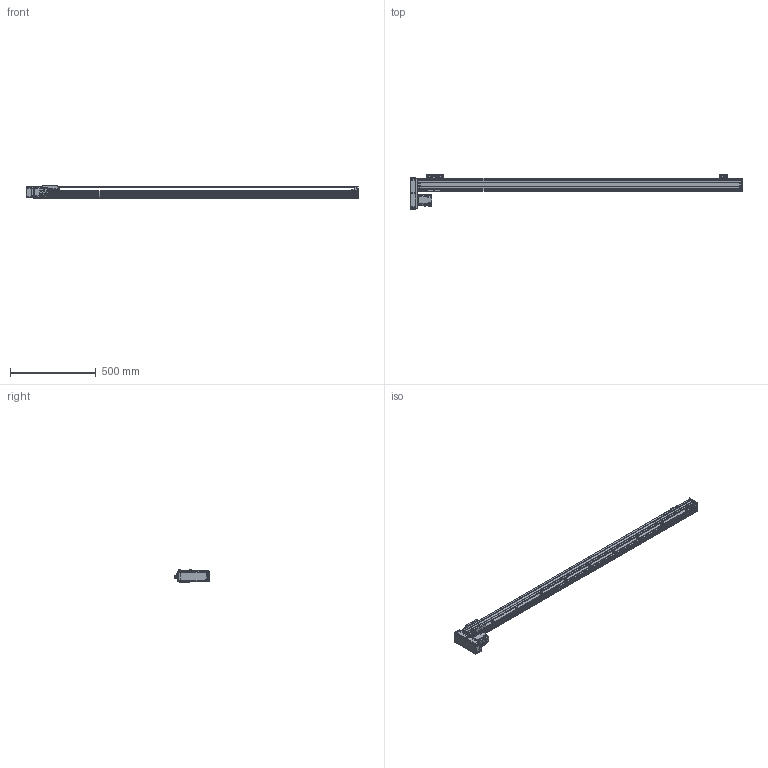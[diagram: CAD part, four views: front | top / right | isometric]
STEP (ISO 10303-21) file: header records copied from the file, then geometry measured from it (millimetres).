
FILE_DESCRIPTION(/* description */ (''),/* implementation_level */ '2;1');
FILE_NAME(/* name */ '\\192.168.0.160\disk1\HAN SHIN Master\B-설계부문\C-표준\B-2024년\BC02-표준도면\+로봇 개선표준도면\홈페이지 표준 도면\홈페이지 최종 작업 폴더\3D\HR\HR75\HR75병렬\우병렬\HR75-R20-N1B-1700-L10.stp',/* time_stamp */ '2025-01-18T17:02:55+09:00',/* author */ ('user'),/* organization */ (''),/* preprocessor_version */ 'ST-DEVELOPER v18.1',/* originating_system */ 'Autodesk Inventor 2022',/* authorisation */ '');
FILE_SCHEMA (('CONFIG_CONTROL_DESIGN'));
Products named in the file (23): HG75-L20-N1B-0500-R10 - 간소화; BASE; HR75 FRONT BLOCK; HR75 REAR COVER-TENTION; HR75 TENSION REAR BLOCK; HG3UPCOV001; H 15F_BLOCK; HG90STOPPER - 20L; HG90STOPPER - 27L; MOTOR PLATE-200W(MITSUBISHI); 화살표; hg-kr23_; M-5HL-4; HR75 W TABLE; LMKE1520 NUT; HR75-LR-BELT COVER(200W); HR75-BELT COVER-COVER2; HR75-BELT COVER-COVER; HR65-BELT COVER-COVER3; HC75-LR-MOTOR PLATE(200W)-사출_MIR; HR65,75 SENSOR DOG; EE_SX674A; SENSOR BRK(EE-SX674A)
Assembly tree (28 placements, depth 2):
  HG75-L20-N1B-0500-R10 - 간소화
    BASE
    HR75 FRONT BLOCK
    HR75 REAR COVER-TENTION
    HR75 TENSION REAR BLOCK
    HG3UPCOV001
    H 15F_BLOCK
    HG90STOPPER - 20L
    HG90STOPPER - 27L
    MOTOR PLATE-200W(MITSUBISHI)
    화살표  x2
    hg-kr23_
    M-5HL-4
    HR75 W TABLE
    LMKE1520 NUT
    SENSOR BRK(EE-SX674A)  x3
    EE_SX674A  x3
    HR75-LR-BELT COVER(200W)
    HR75-BELT COVER-COVER2
    HR75-BELT COVER-COVER
    HR65-BELT COVER-COVER3  x2
    HC75-LR-MOTOR PLATE(200W)-사출_MIR
    HR65,75 SENSOR DOG
Bounding box: 1939 x 199 x 73 mm (x, y, z)
Volume: 2683230.2 mm3; surface area: 1258211.7 mm2
Topology: 28 solids, 28 shells, 2978 faces, 8195 edges, 5417 vertices
Faces by surface type: plane 2189, cylinder 674, cone 107, sphere 8
Full cylindrical faces by diameter (mm): 1.8 x1, 2 x4, 2.013 x2, 2.459 x16, 2.5 x2, 3 x8, 3.242 x76, 3.4 x20, 3.5 x6, 4.134 x54, 4.5 x22, 4.917 x5, 5 x31, 5.5 x38, 5.6 x8, 5.8 x4, 5.9 x8, 6 x4, 6.5 x1, 7 x1, 8 x1, 9.5 x34, 14 x1, 15 x3, 17 x1, 20 x1, 25 x2, 28 x1, 32 x2, 33.7 x1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
Entity records: 91818 total; most frequent: CARTESIAN_POINT 16246, ORIENTED_EDGE 15274, DIRECTION 14596, EDGE_CURVE 7637, LINE 6222, VECTOR 6222, VERTEX_POINT 5085, AXIS2_PLACEMENT_3D 4187
